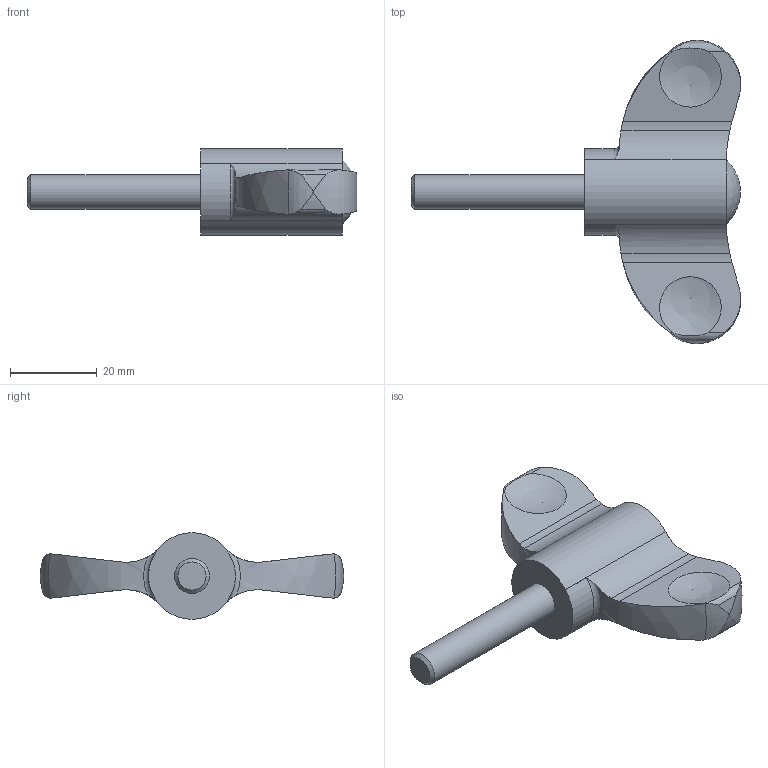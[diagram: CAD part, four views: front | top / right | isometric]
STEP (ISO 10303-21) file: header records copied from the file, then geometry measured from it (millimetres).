
FILE_DESCRIPTION( ( 'STEP AP203' ), '1' );
FILE_NAME( 'C:/Temp/Ganter_Step_05_03_2020/data/2_2/gn_633/Wing nut GN 633-70-M8-40-DOR.stp', '2020-03-05T12:21:05', ( 'License CC BY-ND 4.0' ), ( 'CADENAS' ), ' ', 'PARTsolutions', ' ' );
FILE_SCHEMA( ( 'CONFIG_CONTROL_DESIGN' ) );
Length unit declared in the file: millimetre
Products named in the file (1): _Wing nut GN 633-70-M8-40-DOR
Bounding box: 76 x 70 x 20 mm (x, y, z)
Volume: 20968.4 mm3; surface area: 6593.8 mm2
Topology: 1 solids, 1 shells, 46 faces, 133 edges, 89 vertices
Faces by surface type: cylinder 25, plane 7, sphere 5, torus 4, bspline 4, cone 1
Full cylindrical faces by diameter (mm): 8 x1
Entity records: 2042 total; most frequent: CARTESIAN_POINT 953, ORIENTED_EDGE 236, DIRECTION 180, EDGE_CURVE 118, VERTEX_POINT 84, AXIS2_PLACEMENT_3D 75, B_SPLINE_CURVE_WITH_KNOTS 56, EDGE_LOOP 52
